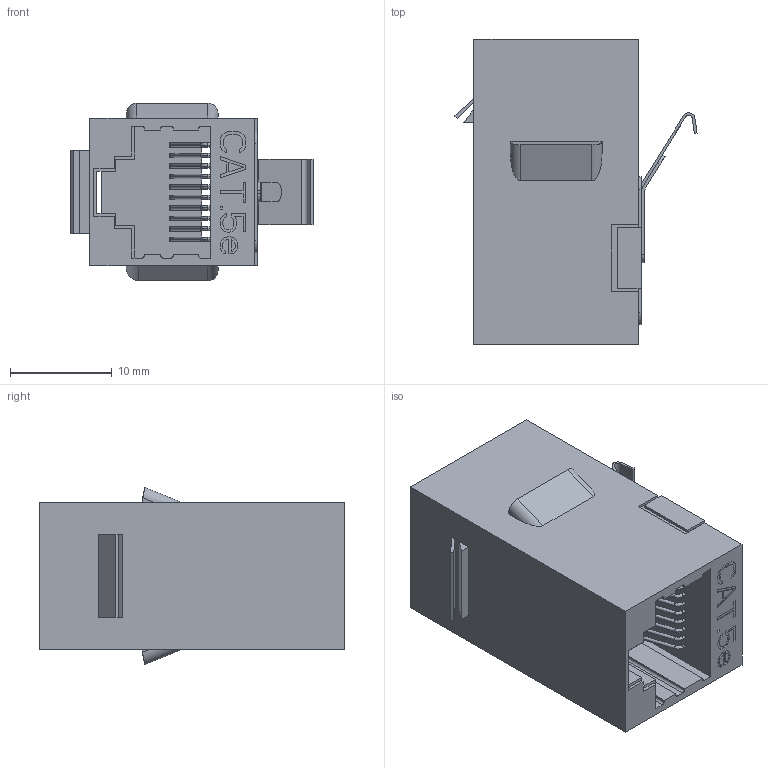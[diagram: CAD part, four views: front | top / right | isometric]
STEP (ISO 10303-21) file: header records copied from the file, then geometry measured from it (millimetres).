
FILE_DESCRIPTION((''),'2;1');
FILE_NAME('S-5966_CAT6A__3D_00','2024-04-22T13:52:22',('Administrator'),(''),'CREO PARAMETRIC BY PTC INC, 2019010','CREO PARAMETRIC BY PTC INC, 2019010','');
FILE_SCHEMA(('CONFIG_CONTROL_DESIGN'));
Length unit declared in the file: millimetre
Products named in the file (1): S-5966_CAT6A__3D_00
Bounding box: 23.77 x 29.95 x 17.4 mm (x, y, z)
Volume: 4163.4 mm3; surface area: 4409.6 mm2
Topology: 1 solids, 1 shells, 721 faces, 2003 edges, 1301 vertices
Faces by surface type: plane 527, cylinder 110, bspline 44, torus 40
Entity records: 24260 total; most frequent: CARTESIAN_POINT 5900, ORIENTED_EDGE 4006, DIRECTION 3452, EDGE_CURVE 2003, VECTOR 1634, LINE 1634, VERTEX_POINT 1301, AXIS2_PLACEMENT_3D 909
